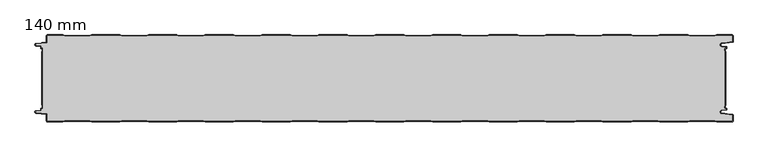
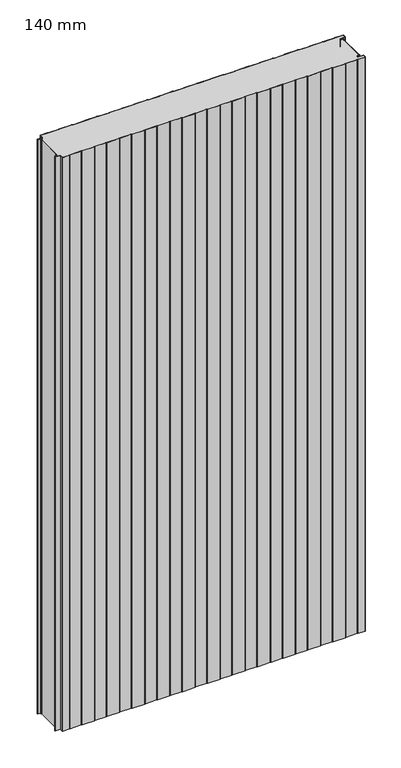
"""IFC4 building model written with IfcOpenShell, lengths in millimetres: plate geometry, HIANSA PANEL - H20.F03.001-PANEL FRIGORÍFICO - PANEL FRIGO - Panel de Muro Cortina : 140 mm."""

from ifc_helpers import new_model, si_unit, point, frame_2d, origin, origin_with_axes, place, context, project, spatial, polyline, circle_curve, trimmed, segment, composite_curve, outline, extrude, source, transform, mapped, element, save


def plate_140_mm_62e60727(model_context):
    return source(origin(), model_context, "Body", "SweptSolid", [
        extrude(outline(polyline([(555.9827922, -114.0), (555.9827922, -26.0), (556.4221321, -26.6713576), (556.4221321, -113.3286424), (555.9827922, -114.0)])), origin_with_axes(), (0.0, 0.0, 1.0), 2200.0),
        extrude(outline(polyline([(-538.5172078, -26.0), (-538.5172078, -114.0), (-539.1172077, -112.9695032), (-539.1172077, -27.0304968), (-538.5172078, -26.0)])), origin_with_axes(), (0.0, 0.0, 1.0), 2200.0),
        extrude(outline(composite_curve([segment(polyline([(-370.9360691, -1.5), (-411.0983467, -1.5), (-414.0983467, -0.5), (-458.9360691, -0.5), (-461.9360691, -1.5), (-502.0983467, -1.5), (-505.0983467, -0.5), (-529.9172079, -0.5)]), True, "CONTINUOUS"), segment(trimmed(circle_curve(frame_2d((-529.9172079, -1.6)), 1.1), [point((-529.9172079, -0.5))], [point((-531.0172079, -1.6))], True, "CARTESIAN"), True, "CONTINUOUS"), segment(polyline([(-531.0172079, -1.6), (-531.0172079, -11.7987531)]), True, "CONTINUOUS"), segment(trimmed(circle_curve(frame_2d((-532.0172079, -11.7987531)), 1.0), [point((-531.0172079, -11.7987531))], [point((-531.9177042, -12.7937903))], False, "CARTESIAN"), True, "CONTINUOUS"), segment(polyline([(-531.9177042, -12.7937903), (-548.0592062, -14.4079404)]), True, "CONTINUOUS"), segment(trimmed(circle_curve(frame_2d((-547.9000002, -15.9999999)), 1.6), [point((-548.0592062, -14.4079404))], [point((-548.0592062, -17.5920594))], True, "CARTESIAN"), True, "CONTINUOUS"), segment(polyline([(-548.0592062, -17.5920594), (-541.4177042, -18.2562097)]), True, "CONTINUOUS"), segment(trimmed(circle_curve(frame_2d((-541.5172079, -19.2512469)), 1.0), [point((-541.4177042, -18.2562097))], [point((-540.5172079, -19.2512469))], False, "CARTESIAN"), True, "CONTINUOUS"), segment(polyline([(-540.5172079, -19.2512469), (-540.5172079, -21.5), (-539.0172079, -21.5)]), True, "CONTINUOUS"), segment(trimmed(circle_curve(frame_2d((-539.0172079, -22.5)), 1.0), [point((-539.0172079, -21.5))], [point((-538.0172079, -22.5))], False, "CARTESIAN"), True, "CONTINUOUS"), segment(polyline([(-538.0172079, -22.5), (-538.0172079, -25.1412526), (-538.5172079, -26.0), (-538.5172079, -22.0), (-540.0172079, -22.0)]), True, "CONTINUOUS"), segment(trimmed(circle_curve(frame_2d((-540.0172079, -21.0)), 1.0), [point((-540.0172079, -22.0))], [point((-541.0172079, -21.0))], False, "CARTESIAN"), True, "CONTINUOUS"), segment(polyline([(-541.0172079, -21.0), (-541.0172079, -18.7987531), (-548.1089579, -18.0895783)]), True, "CONTINUOUS"), segment(trimmed(circle_curve(frame_2d((-547.9000002, -16.0000002)), 2.1), [point((-548.1089579, -18.0895783))], [point((-548.108958, -13.9104221))], False, "CARTESIAN"), True, "CONTINUOUS"), segment(polyline([(-548.108958, -13.9104221), (-531.5172079, -12.2512469), (-531.5172079, -1.6)]), True, "CONTINUOUS"), segment(trimmed(circle_curve(frame_2d((-529.9172079, -1.6)), 1.6), [point((-531.5172079, -1.6))], [point((-529.9172079, 0.0))], False, "CARTESIAN"), True, "CONTINUOUS"), segment(polyline([(-529.9172079, 0.0), (-505.0172079, 0.0), (-502.0172079, -1.0), (-462.0172079, -1.0), (-459.0172079, 0.0), (-414.0172079, 0.0), (-411.0172079, -1.0), (-371.0172079, -1.0), (-368.0172079, 0.0), (-323.0172079, 0.0), (-320.0172079, -1.0), (-280.0172079, -1.0), (-277.0172079, 0.0), (-232.0172079, 0.0), (-229.0172079, -1.0), (-189.0172079, -1.0), (-186.0172079, 0.0), (-141.0172079, 0.0), (-138.0172079, -1.0), (-98.0172079, -1.0), (-95.0172079, 0.0), (-50.0172079, 0.0), (-47.0172079, -1.0), (-7.0172079, -1.0), (-4.0172079, 0.0), (40.9827921, 0.0), (43.9827921, -1.0), (83.9827921, -1.0), (86.9827921, 0.0), (131.9827921, 0.0), (134.9827921, -1.0), (174.9827921, -1.0), (177.9827921, 0.0), (222.9827921, 0.0), (225.9827921, -1.0), (265.9827921, -1.0), (268.9827921, 0.0), (313.9827921, 0.0), (316.9827921, -1.0), (356.9827921, -1.0), (359.9827921, 0.0), (404.9827921, 0.0), (407.9827921, -1.0), (447.9827921, -1.0), (450.9827921, 0.0), (495.9827921, 0.0), (498.9827921, -1.0), (538.9827921, -1.0), (541.9827921, 0.0), (566.8827921, 0.0)]), True, "CONTINUOUS"), segment(trimmed(circle_curve(frame_2d((566.8827921, -1.6)), 1.6), [point((566.8827921, 0.0))], [point((568.4827921, -1.6))], False, "CARTESIAN"), True, "CONTINUOUS"), segment(polyline([(568.4827921, -1.6), (568.4827921, -11.0950124)]), True, "CONTINUOUS"), segment(trimmed(circle_curve(frame_2d((567.4827921, -11.0950124)), 1.0), [point((568.4827921, -11.0950124))], [point((567.5822958, -12.0900496))], False, "CARTESIAN"), True, "CONTINUOUS"), segment(polyline([(567.5822958, -12.0900496), (550.2837847, -13.8199007)]), True, "CONTINUOUS"), segment(trimmed(circle_curve(frame_2d((550.5873461, -16.0)), 2.2011321), [point((550.2837847, -13.8199007))], [point((550.2837847, -18.1800993))], True, "CARTESIAN"), True, "CONTINUOUS"), segment(polyline([(550.2837847, -18.1800993), (557.5822958, -18.9099504)]), True, "CONTINUOUS"), segment(trimmed(circle_curve(frame_2d((557.4827921, -19.9049876)), 1.0), [point((557.5822958, -18.9099504))], [point((558.4827921, -19.9049876))], False, "CARTESIAN"), True, "CONTINUOUS"), segment(polyline([(558.4827921, -19.9049876), (558.4827921, -21.0)]), True, "CONTINUOUS"), segment(trimmed(circle_curve(frame_2d((557.4827921, -21.0)), 1.0), [point((558.4827921, -21.0))], [point((557.4827921, -22.0))], False, "CARTESIAN"), True, "CONTINUOUS"), segment(polyline([(557.4827921, -22.0), (555.9827921, -22.0), (555.9827921, -26.0), (555.4827921, -25.2359473), (555.4827921, -22.5)]), True, "CONTINUOUS"), segment(trimmed(circle_curve(frame_2d((556.4827921, -22.5)), 1.0), [point((555.4827921, -22.5))], [point((556.4827921, -21.5))], False, "CARTESIAN"), True, "CONTINUOUS"), segment(polyline([(556.4827921, -21.5), (557.9827921, -21.5), (557.9827921, -19.4524938), (550.2340328, -18.6776179)]), True, "CONTINUOUS"), segment(trimmed(circle_curve(frame_2d((550.5859823, -16.0)), 2.7006492), [point((550.2340328, -18.6776179))], [point((550.2340328, -13.3223821))], False, "CARTESIAN"), True, "CONTINUOUS"), segment(polyline([(550.2340328, -13.3223821), (567.9827921, -11.5475062), (567.9827921, -1.6)]), True, "CONTINUOUS"), segment(trimmed(circle_curve(frame_2d((566.8827921, -1.6)), 1.1), [point((567.9827921, -1.6))], [point((566.8827921, -0.5))], True, "CARTESIAN"), True, "CONTINUOUS"), segment(polyline([(566.8827921, -0.5), (542.0639309, -0.5), (539.0639309, -1.5), (498.9016533, -1.5), (495.9016533, -0.5), (451.0639309, -0.5), (448.0639309, -1.5), (407.9016533, -1.5), (404.9016533, -0.5), (360.0639309, -0.5), (357.0639309, -1.5), (316.9016533, -1.5), (313.9016533, -0.5), (269.0639309, -0.5), (266.0639309, -1.5), (225.9016533, -1.5), (222.9016533, -0.5), (178.0639309, -0.5), (175.0639309, -1.5), (134.9016533, -1.5), (131.9016533, -0.5), (87.0639309, -0.5), (84.0639309, -1.5), (43.9016533, -1.5), (40.9016533, -0.5), (-3.9360691, -0.5), (-6.9360691, -1.5), (-47.0983467, -1.5), (-50.0983467, -0.5), (-94.9360691, -0.5), (-97.9360691, -1.5), (-138.0983467, -1.5), (-141.0983467, -0.5), (-185.9360691, -0.5), (-188.9360691, -1.5), (-229.0983467, -1.5), (-232.0983467, -0.5), (-276.9360691, -0.5), (-279.9360691, -1.5), (-320.0983467, -1.5), (-323.0983467, -0.5), (-367.9360691, -0.5), (-370.9360691, -1.5)]), True, "CONTINUOUS")], self_intersect=False)), origin_with_axes(), (0.0, 0.0, 1.0), 2200.0),
        extrude(outline(composite_curve([segment(polyline([(-370.9360691, -138.5), (-367.9360691, -139.5), (-323.0983467, -139.5), (-320.0983467, -138.5), (-279.9360691, -138.5), (-276.9360691, -139.5), (-232.0983467, -139.5), (-229.0983467, -138.5), (-188.9360691, -138.5), (-185.9360691, -139.5), (-141.0983467, -139.5), (-138.0983467, -138.5), (-97.9360691, -138.5), (-94.9360691, -139.5), (-50.0983467, -139.5), (-47.0983467, -138.5), (-6.9360691, -138.5), (-3.9360691, -139.5), (40.9016533, -139.5), (43.9016533, -138.5), (84.0639309, -138.5), (87.0639309, -139.5), (131.9016533, -139.5), (134.9016533, -138.5), (175.0639309, -138.5), (178.0639309, -139.5), (222.9016533, -139.5), (225.9016533, -138.5), (266.0639309, -138.5), (269.0639309, -139.5), (313.9016533, -139.5), (316.9016533, -138.5), (357.0639309, -138.5), (360.0639309, -139.5), (404.9016533, -139.5), (407.9016533, -138.5), (448.0639309, -138.5), (451.0639309, -139.5), (495.9016533, -139.5), (498.9016533, -138.5), (539.0639309, -138.5), (542.0639309, -139.5), (566.8827921, -139.5)]), True, "CONTINUOUS"), segment(trimmed(circle_curve(frame_2d((566.8827921, -138.4)), 1.1), [point((566.8827921, -139.5))], [point((567.9827921, -138.4))], True, "CARTESIAN"), True, "CONTINUOUS"), segment(polyline([(567.9827921, -138.4), (567.9827921, -128.4524938), (550.2340328, -126.6776179)]), True, "CONTINUOUS"), segment(trimmed(circle_curve(frame_2d((550.5859823, -124.0)), 2.7006492), [point((550.2340328, -126.6776179))], [point((550.2340328, -121.3223821))], False, "CARTESIAN"), True, "CONTINUOUS"), segment(polyline([(550.2340328, -121.3223821), (557.9827921, -120.5475062), (557.9827921, -118.5), (556.4827921, -118.5)]), True, "CONTINUOUS"), segment(trimmed(circle_curve(frame_2d((556.4827921, -117.5)), 1.0), [point((556.4827921, -118.5))], [point((555.4827921, -117.5))], False, "CARTESIAN"), True, "CONTINUOUS"), segment(polyline([(555.4827921, -117.5), (555.4827921, -114.7640527), (555.9827921, -114.0), (555.9827921, -118.0), (557.4827921, -118.0)]), True, "CONTINUOUS"), segment(trimmed(circle_curve(frame_2d((557.4827921, -119.0)), 1.0), [point((557.4827921, -118.0))], [point((558.4827921, -119.0))], False, "CARTESIAN"), True, "CONTINUOUS"), segment(polyline([(558.4827921, -119.0), (558.4827921, -120.0950124)]), True, "CONTINUOUS"), segment(trimmed(circle_curve(frame_2d((557.4827921, -120.0950124)), 1.0), [point((558.4827921, -120.0950124))], [point((557.5822958, -121.0900496))], False, "CARTESIAN"), True, "CONTINUOUS"), segment(polyline([(557.5822958, -121.0900496), (550.2837847, -121.8199007)]), True, "CONTINUOUS"), segment(trimmed(circle_curve(frame_2d((550.5873461, -124.0)), 2.2011321), [point((550.2837847, -121.8199007))], [point((550.2837847, -126.1800993))], True, "CARTESIAN"), True, "CONTINUOUS"), segment(polyline([(550.2837847, -126.1800993), (567.5822958, -127.9099504)]), True, "CONTINUOUS"), segment(trimmed(circle_curve(frame_2d((567.4827921, -128.9049876)), 1.0), [point((567.5822958, -127.9099504))], [point((568.4827921, -128.9049876))], False, "CARTESIAN"), True, "CONTINUOUS"), segment(polyline([(568.4827921, -128.9049876), (568.4827921, -138.4)]), True, "CONTINUOUS"), segment(trimmed(circle_curve(frame_2d((566.8827921, -138.4)), 1.6), [point((568.4827921, -138.4))], [point((566.8827921, -140.0))], False, "CARTESIAN"), True, "CONTINUOUS"), segment(polyline([(566.8827921, -140.0), (541.9827921, -140.0), (538.9827921, -139.0), (498.9827921, -139.0), (495.9827921, -140.0), (450.9827921, -140.0), (447.9827921, -139.0), (407.9827921, -139.0), (404.9827921, -140.0), (359.9827921, -140.0), (356.9827921, -139.0), (316.9827921, -139.0), (313.9827921, -140.0), (268.9827921, -140.0), (265.9827921, -139.0), (225.9827921, -139.0), (222.9827921, -140.0), (177.9827921, -140.0), (174.9827921, -139.0), (134.9827921, -139.0), (131.9827921, -140.0), (86.9827921, -140.0), (83.9827921, -139.0), (43.9827921, -139.0), (40.9827921, -140.0), (-4.0172079, -140.0), (-7.0172079, -139.0), (-47.0172079, -139.0), (-50.0172079, -140.0), (-95.0172079, -140.0), (-98.0172079, -139.0), (-138.0172079, -139.0), (-141.0172079, -140.0), (-186.0172079, -140.0), (-189.0172079, -139.0), (-229.0172079, -139.0), (-232.0172079, -140.0), (-277.0172079, -140.0), (-280.0172079, -139.0), (-320.0172079, -139.0), (-323.0172079, -140.0), (-368.0172079, -140.0), (-371.0172079, -139.0), (-411.0172079, -139.0), (-414.0172079, -140.0), (-459.0172079, -140.0), (-462.0172079, -139.0), (-502.0172079, -139.0), (-505.0172079, -140.0), (-529.9172079, -140.0)]), True, "CONTINUOUS"), segment(trimmed(circle_curve(frame_2d((-529.9172079, -138.4)), 1.6), [point((-529.9172079, -140.0))], [point((-531.5172079, -138.4))], False, "CARTESIAN"), True, "CONTINUOUS"), segment(polyline([(-531.5172079, -138.4), (-531.5172079, -127.7487531), (-548.108958, -126.0895779)]), True, "CONTINUOUS"), segment(trimmed(circle_curve(frame_2d((-547.9000002, -123.9999998)), 2.1), [point((-548.108958, -126.0895779))], [point((-548.1089579, -121.9104217))], False, "CARTESIAN"), True, "CONTINUOUS"), segment(polyline([(-548.1089579, -121.9104217), (-541.0172079, -121.2012469), (-541.0172079, -119.0)]), True, "CONTINUOUS"), segment(trimmed(circle_curve(frame_2d((-540.0172079, -119.0)), 1.0), [point((-541.0172079, -119.0))], [point((-540.0172079, -118.0))], False, "CARTESIAN"), True, "CONTINUOUS"), segment(polyline([(-540.0172079, -118.0), (-538.5172079, -118.0), (-538.5172079, -114.0), (-538.0172079, -114.8587474), (-538.0172079, -117.5)]), True, "CONTINUOUS"), segment(trimmed(circle_curve(frame_2d((-539.0172079, -117.5)), 1.0), [point((-538.0172079, -117.5))], [point((-539.0172079, -118.5))], False, "CARTESIAN"), True, "CONTINUOUS"), segment(polyline([(-539.0172079, -118.5), (-540.5172079, -118.5), (-540.5172079, -120.7487531)]), True, "CONTINUOUS"), segment(trimmed(circle_curve(frame_2d((-541.5172079, -120.7487531)), 1.0), [point((-540.5172079, -120.7487531))], [point((-541.4177042, -121.7437903))], False, "CARTESIAN"), True, "CONTINUOUS"), segment(polyline([(-541.4177042, -121.7437903), (-548.0592062, -122.4079406)]), True, "CONTINUOUS"), segment(trimmed(circle_curve(frame_2d((-547.9000002, -124.0000001)), 1.6), [point((-548.0592062, -122.4079406))], [point((-548.0592062, -125.5920596))], True, "CARTESIAN"), True, "CONTINUOUS"), segment(polyline([(-548.0592062, -125.5920596), (-531.9177042, -127.2062097)]), True, "CONTINUOUS"), segment(trimmed(circle_curve(frame_2d((-532.0172079, -128.2012469)), 1.0), [point((-531.9177042, -127.2062097))], [point((-531.0172079, -128.2012469))], False, "CARTESIAN"), True, "CONTINUOUS"), segment(polyline([(-531.0172079, -128.2012469), (-531.0172079, -138.4)]), True, "CONTINUOUS"), segment(trimmed(circle_curve(frame_2d((-529.9172079, -138.4)), 1.1), [point((-531.0172079, -138.4))], [point((-529.9172079, -139.5))], True, "CARTESIAN"), True, "CONTINUOUS"), segment(polyline([(-529.9172079, -139.5), (-505.0983467, -139.5), (-502.0983467, -138.5), (-461.9360691, -138.5), (-458.9360691, -139.5), (-414.0983467, -139.5), (-411.0983467, -138.5), (-370.9360691, -138.5)]), True, "CONTINUOUS")], self_intersect=False)), origin_with_axes(), (0.0, 0.0, 1.0), 2200.0),
        extrude(outline(composite_curve([segment(polyline([(-461.936069, -1.5), (-458.936069, -0.5), (-414.0983467, -0.5), (-411.0983467, -1.5), (-370.936069, -1.5), (-367.936069, -0.5), (-323.0983467, -0.5), (-320.0983467, -1.5), (-279.936069, -1.5), (-276.936069, -0.5), (-232.0983467, -0.5), (-229.0983467, -1.5), (-188.936069, -1.5), (-185.936069, -0.5), (-141.0983467, -0.5), (-138.0983467, -1.5), (-97.936069, -1.5), (-94.936069, -0.5), (-50.0983467, -0.5), (-47.0983467, -1.5), (-6.936069, -1.5), (-3.936069, -0.5), (40.9016533, -0.5), (43.9016533, -1.5), (84.063931, -1.5), (87.063931, -0.5), (131.9016533, -0.5), (134.9016533, -1.5), (175.063931, -1.5), (178.063931, -0.5), (222.9016533, -0.5), (225.9016533, -1.5), (266.063931, -1.5), (269.063931, -0.5), (313.9016533, -0.5), (316.9016533, -1.5), (357.063931, -1.5), (360.063931, -0.5), (404.9016533, -0.5), (407.9016533, -1.5), (448.063931, -1.5), (451.063931, -0.5), (495.9016533, -0.5), (498.9016533, -1.5), (539.063931, -1.5), (542.063931, -0.5), (566.8827921, -0.5)]), True, "CONTINUOUS"), segment(trimmed(circle_curve(frame_2d((566.8827921, -1.6)), 1.1), [point((566.8827921, -0.5))], [point((567.9827921, -1.6))], False, "CARTESIAN"), True, "CONTINUOUS"), segment(polyline([(567.9827921, -1.6), (567.9827921, -11.5475062), (550.2340328, -13.3223821)]), True, "CONTINUOUS"), segment(trimmed(circle_curve(frame_2d((550.5859824, -16.0)), 2.7006492), [point((550.2340328, -13.3223821))], [point((550.2340328, -18.6776179))], True, "CARTESIAN"), True, "CONTINUOUS"), segment(polyline([(550.2340328, -18.6776179), (557.9827921, -19.4524938), (557.9827921, -21.5), (556.4827921, -21.5)]), True, "CONTINUOUS"), segment(trimmed(circle_curve(frame_2d((556.4827921, -22.5)), 1.0), [point((556.4827921, -21.5))], [point((555.4827921, -22.5))], True, "CARTESIAN"), True, "CONTINUOUS"), segment(polyline([(555.4827921, -22.5), (555.4827921, -25.2359473), (555.9827921, -26.0), (555.9827921, -114.0), (555.4827921, -114.7640527), (555.4827921, -117.5)]), True, "CONTINUOUS"), segment(trimmed(circle_curve(frame_2d((556.4827921, -117.5)), 1.0), [point((555.4827921, -117.5))], [point((556.4827921, -118.5))], True, "CARTESIAN"), True, "CONTINUOUS"), segment(polyline([(556.4827921, -118.5), (557.9827921, -118.5), (557.9827921, -120.5475062), (550.2340328, -121.3223821)]), True, "CONTINUOUS"), segment(trimmed(circle_curve(frame_2d((550.5859824, -124.0)), 2.7006492), [point((550.2340328, -121.3223821))], [point((550.2340328, -126.6776179))], True, "CARTESIAN"), True, "CONTINUOUS"), segment(polyline([(550.2340328, -126.6776179), (567.9827921, -128.4524938), (567.9827921, -138.4)]), True, "CONTINUOUS"), segment(trimmed(circle_curve(frame_2d((566.8827921, -138.4)), 1.1), [point((567.9827921, -138.4))], [point((566.8827921, -139.5))], False, "CARTESIAN"), True, "CONTINUOUS"), segment(polyline([(566.8827921, -139.5), (542.063931, -139.5), (539.063931, -138.5), (498.9016533, -138.5), (495.9016533, -139.5), (451.063931, -139.5), (448.063931, -138.5), (407.9016533, -138.5), (404.9016533, -139.5), (360.063931, -139.5), (357.063931, -138.5), (316.9016533, -138.5), (313.9016533, -139.5), (269.063931, -139.5), (266.063931, -138.5), (225.9016533, -138.5), (222.9016533, -139.5), (178.063931, -139.5), (175.063931, -138.5), (134.9016533, -138.5), (131.9016533, -139.5), (87.063931, -139.5), (84.063931, -138.5), (43.9016533, -138.5), (40.9016533, -139.5), (-3.936069, -139.5), (-6.936069, -138.5), (-47.0983467, -138.5), (-50.0983467, -139.5), (-94.936069, -139.5), (-97.936069, -138.5), (-138.0983467, -138.5), (-141.0983467, -139.5), (-185.936069, -139.5), (-188.936069, -138.5), (-229.0983467, -138.5), (-232.0983467, -139.5), (-276.936069, -139.5), (-279.936069, -138.5), (-320.0983467, -138.5), (-323.0983467, -139.5), (-367.936069, -139.5), (-370.936069, -138.5), (-411.0983467, -138.5), (-414.0983467, -139.5), (-458.936069, -139.5), (-461.936069, -138.5), (-502.0983467, -138.5), (-505.0983467, -139.5), (-529.9172079, -139.5)]), True, "CONTINUOUS"), segment(trimmed(circle_curve(frame_2d((-529.9172079, -138.4)), 1.1), [point((-529.9172079, -139.5))], [point((-531.0172079, -138.4))], False, "CARTESIAN"), True, "CONTINUOUS"), segment(polyline([(-531.0172079, -138.4), (-531.0172079, -128.2012469)]), True, "CONTINUOUS"), segment(trimmed(circle_curve(frame_2d((-532.0172079, -128.2012469)), 1.0), [point((-531.0172079, -128.2012469))], [point((-531.9177042, -127.2062097))], True, "CARTESIAN"), True, "CONTINUOUS"), segment(polyline([(-531.9177042, -127.2062097), (-548.0592062, -125.5920596)]), True, "CONTINUOUS"), segment(trimmed(circle_curve(frame_2d((-547.9000002, -124.0000001)), 1.6), [point((-548.0592062, -125.5920596))], [point((-548.0592062, -122.4079406))], False, "CARTESIAN"), True, "CONTINUOUS"), segment(polyline([(-548.0592062, -122.4079406), (-541.4177041, -121.7437903)]), True, "CONTINUOUS"), segment(trimmed(circle_curve(frame_2d((-541.5172079, -120.7487531)), 1.0), [point((-541.4177041, -121.7437903))], [point((-540.5172079, -120.7487531))], True, "CARTESIAN"), True, "CONTINUOUS"), segment(polyline([(-540.5172079, -120.7487531), (-540.5172079, -118.5), (-539.0172079, -118.5)]), True, "CONTINUOUS"), segment(trimmed(circle_curve(frame_2d((-539.0172079, -117.5)), 1.0), [point((-539.0172079, -118.5))], [point((-538.0172079, -117.5))], True, "CARTESIAN"), True, "CONTINUOUS"), segment(polyline([(-538.0172079, -117.5), (-538.0172079, -114.8587474), (-538.5172079, -114.0), (-538.5172079, -26.0), (-538.0172079, -25.1412526), (-538.0172079, -22.5)]), True, "CONTINUOUS"), segment(trimmed(circle_curve(frame_2d((-539.0172079, -22.5)), 1.0), [point((-538.0172079, -22.5))], [point((-539.0172079, -21.5))], True, "CARTESIAN"), True, "CONTINUOUS"), segment(polyline([(-539.0172079, -21.5), (-540.5172079, -21.5), (-540.5172079, -19.2512469)]), True, "CONTINUOUS"), segment(trimmed(circle_curve(frame_2d((-541.5172079, -19.2512469)), 1.0), [point((-540.5172079, -19.2512469))], [point((-541.4177041, -18.2562097))], True, "CARTESIAN"), True, "CONTINUOUS"), segment(polyline([(-541.4177041, -18.2562097), (-548.0592062, -17.5920594)]), True, "CONTINUOUS"), segment(trimmed(circle_curve(frame_2d((-547.9000003, -15.9999999)), 1.6), [point((-548.0592062, -17.5920594))], [point((-548.0592062, -14.4079404))], False, "CARTESIAN"), True, "CONTINUOUS"), segment(polyline([(-548.0592062, -14.4079404), (-531.9177042, -12.7937903)]), True, "CONTINUOUS"), segment(trimmed(circle_curve(frame_2d((-532.0172079, -11.7987531)), 1.0), [point((-531.9177042, -12.7937903))], [point((-531.0172079, -11.7987531))], True, "CARTESIAN"), True, "CONTINUOUS"), segment(polyline([(-531.0172079, -11.7987531), (-531.0172079, -1.6)]), True, "CONTINUOUS"), segment(trimmed(circle_curve(frame_2d((-529.9172079, -1.6)), 1.1), [point((-531.0172079, -1.6))], [point((-529.9172079, -0.5))], False, "CARTESIAN"), True, "CONTINUOUS"), segment(polyline([(-529.9172079, -0.5), (-505.0983467, -0.5), (-502.0983467, -1.5), (-461.936069, -1.5)]), True, "CONTINUOUS")], self_intersect=False)), origin_with_axes(), (0.0, 0.0, 1.0), 2200.0),
    ])


if __name__ == "__main__":
    model = new_model("IFC4")
    model_context = context("Model", 3, world=origin())
    ifc_project = project(units=[si_unit("LENGTHUNIT", "METRE", prefix="MILLI")], contexts=[model_context])
    site = spatial("IfcSite", under=ifc_project)
    building = spatial("IfcBuilding", under=site)
    placement = place(None, origin())
    plate_140_mm_shape = plate_140_mm_62e60727(model_context)
    element("IfcPlate", 1, ObjectType="HIANSA PANEL - H20.F03.001-PANEL FRIGORÍFICO - PANEL FRIGO - Panel de Muro Cortina : 140 mm", at=placement, inside=building, context=model_context, shape_type="MappedRepresentation", body=[
        mapped(plate_140_mm_shape, transform((0.0, 0.0, 0.0), x_axis=(1.0, 0.0, 0.0), y_axis=(0.0, 1.0, 0.0), z_axis=(0.0, 0.0, 1.0))),
    ])
    save(model, "model.ifc")
